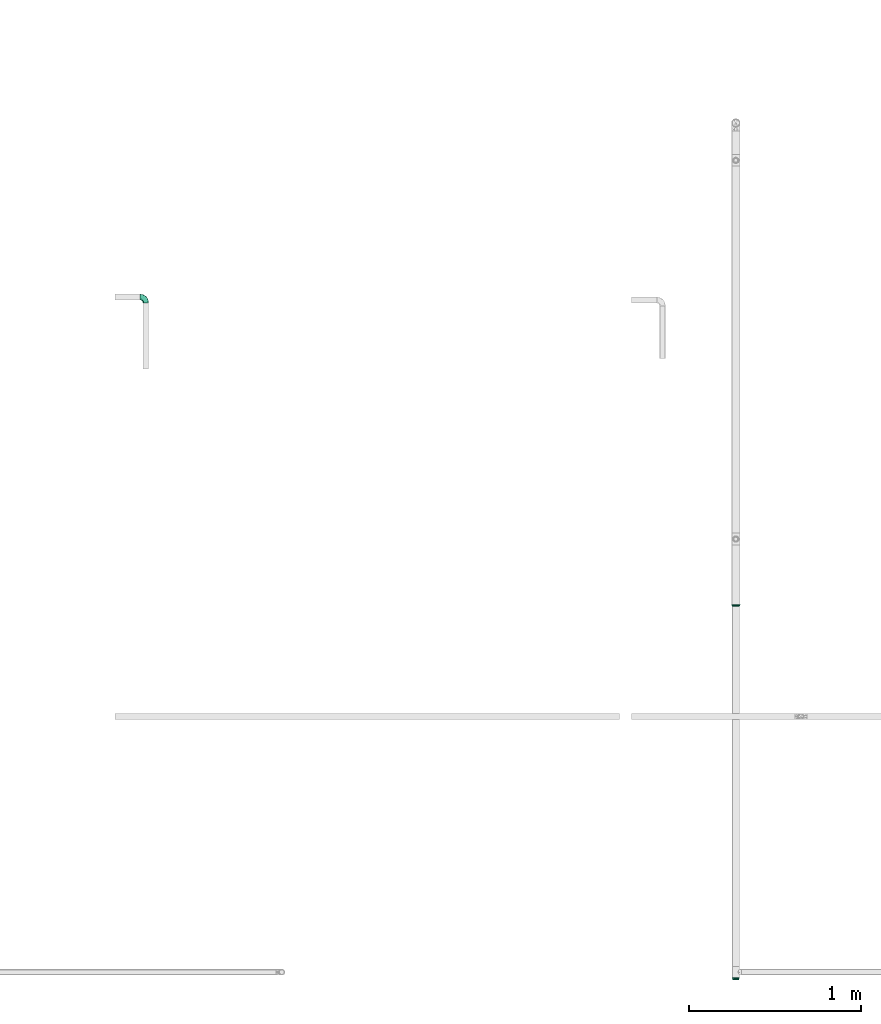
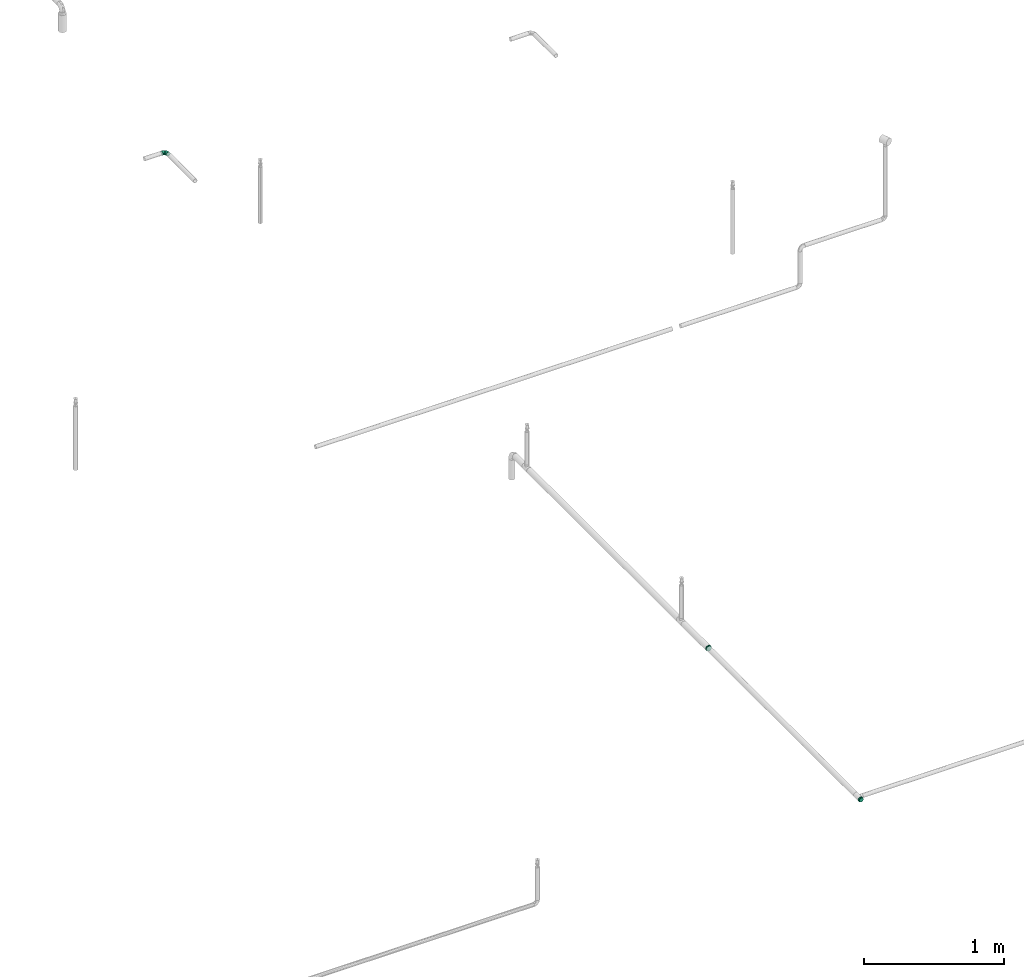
# One storey, part 25 of 63: 3 flow fittings.
"""IFC2X3 building model written with IfcOpenShell, lengths in millimetres."""

import ifcopenshell
import ifcopenshell.guid

model = None  # the IFC model being written
_history = None  # IfcOwnerHistory: only IFC2X3 demands one
_inside = {}  # id of a spatial element -> (the spatial element, [elements in it])
_under = {}  # id of a project, library or spatial element -> (it, [spatial elements below it])
_declared = {}  # id of a project -> (the project, [libraries it declares])
_typed = {}  # id of a type object -> (the type object, [elements of that type])
_made_of = {}  # id of a material, layer set ... -> (it, [elements and type objects made of it])


def new_model(schema):
    """Start an empty IFC model of exactly this schema.

    Asked for "IFC4X3", IfcOpenShell would pick the latest addendum, in which some entities
    have other attributes; the version numbers below select the first issue.
    IFC2X3 requires an IfcOwnerHistory on every rooted entity: one is made here for all.
    """
    global model, _history
    if schema == "IFC4X3":
        model = ifcopenshell.file(schema_version=(4, 3, 0, 0))
    else:
        model = ifcopenshell.file(schema=schema)
    _inside.clear()
    _under.clear()
    _declared.clear()
    _typed.clear()
    _made_of.clear()
    _history = None
    if model.schema == "IFC2X3":
        org = make("IfcOrganization", Name="unknown")
        user = make(
            "IfcPersonAndOrganization",
            ThePerson=make("IfcPerson", FamilyName="unknown"),
            TheOrganization=org,
        )
        app = make(
            "IfcApplication",
            ApplicationDeveloper=org,
            Version="unknown",
            ApplicationFullName="unknown",
            ApplicationIdentifier="unknown",
        )
        _history = make(
            "IfcOwnerHistory",
            OwningUser=user,
            OwningApplication=app,
            ChangeAction="ADDED",
            CreationDate=0,
        )
    return model


def make(cls, **values):
    """One entity of the class cls with the attributes given. An attribute that is None is left unset."""
    return model.create_entity(
        cls, **{name: value for name, value in values.items() if value is not None}
    )


def entity(cls, *values):
    """Any entity or typed value of the class cls, its attributes in the order of the schema. None: left unset."""
    e = model.create_entity(cls)
    for i, value in enumerate(values):
        if value is not None:
            e[i] = value
    return e


def rooted(cls, **values):
    """An entity with a GlobalId (a new one), such as an element, a storey or a relation."""
    return make(cls, GlobalId=ifcopenshell.guid.new(), OwnerHistory=_history, **values)


def si_unit(unit_type, name, prefix=None):
    """IfcSIUnit, for example si_unit("LENGTHUNIT", "METRE", prefix="MILLI")."""
    return make("IfcSIUnit", UnitType=unit_type, Prefix=prefix, Name=name)


def converted_unit(unit_type, name, factor, base, dimensions=None, offset=None):
    """IfcConversionBasedUnit, such as the inch: factor (a typed value) times the base unit."""
    return make(
        "IfcConversionBasedUnit"
        if offset is None
        else "IfcConversionBasedUnitWithOffset",
        ConversionOffset=offset,
        Dimensions=None
        if dimensions is None
        else entity("IfcDimensionalExponents", *dimensions),
        UnitType=unit_type,
        Name=name,
        ConversionFactor=make(
            "IfcMeasureWithUnit", ValueComponent=factor, UnitComponent=base
        ),
    )


def derived_unit(unit_type, elements):
    """IfcDerivedUnit: a product of units, each with its exponent."""
    return make(
        "IfcDerivedUnit",
        Elements=[
            make("IfcDerivedUnitElement", Unit=unit, Exponent=power)
            for unit, power in elements
        ],
        UnitType=unit_type,
    )


def assignment(units):
    """IfcUnitAssignment: the units of a project."""
    return None if units is None else make("IfcUnitAssignment", Units=units)


def point(xyz):
    """IfcCartesianPoint."""
    return None if xyz is None else make("IfcCartesianPoint", Coordinates=xyz)


def direction(xyz):
    """IfcDirection."""
    return None if xyz is None else make("IfcDirection", DirectionRatios=xyz)


def frame(location, z_axis=None, x_axis=None):
    """IfcAxis2Placement3D, a coordinate frame: its origin and axes. An axis left out is left unset."""
    return make(
        "IfcAxis2Placement3D",
        Location=point(location),
        Axis=direction(z_axis),
        RefDirection=direction(x_axis),
    )


def origin_with_axes():
    """The frame at (0, 0, 0) with the z axis (0, 0, 1) and the x axis (1, 0, 0) written out."""
    return frame((0.0, 0.0, 0.0), z_axis=(0.0, 0.0, 1.0), x_axis=(1.0, 0.0, 0.0))


def place(relative_to, where):
    """IfcLocalPlacement: puts the frame where relative to a parent placement (None: the world)."""
    return make(
        "IfcLocalPlacement", PlacementRelTo=relative_to, RelativePlacement=where
    )


def context(
    kind, dimensions, precision=None, world=None, true_north=None, identifier=None
):
    """IfcGeometricRepresentationContext, for example the 3D "Model" context."""
    return make(
        "IfcGeometricRepresentationContext",
        ContextIdentifier=identifier,
        ContextType=kind,
        CoordinateSpaceDimension=dimensions,
        Precision=precision,
        WorldCoordinateSystem=world,
        TrueNorth=true_north,
    )


def subcontext(parent, identifier, kind, view, scale=None):
    """IfcGeometricRepresentationSubContext, for example "Body" below "Model"."""
    return make(
        "IfcGeometricRepresentationSubContext",
        ContextIdentifier=identifier,
        ContextType=kind,
        ParentContext=parent,
        TargetScale=scale,
        TargetView=view,
    )


def project(units=None, contexts=None):
    """IfcProject with its units and contexts."""
    return rooted(
        "IfcProject",
        Name="project",
        RepresentationContexts=contexts,
        UnitsInContext=assignment(units),
    )


def spatial(cls, under=None, at=None, **own):
    """A site, building, storey or space (cls), placed at a placement, below another one or the project."""
    s = rooted(cls, ObjectPlacement=at, **own)
    if under is not None:
        _under.setdefault(under.id(), (under, []))[1].append(s)
    return s


def faces_of(points, faces, orient=None, outer=None):
    """IfcFace entities. A face is a list of loops; a loop is a list of indices into points, from 0.

    orient and outer hold one flag for each loop. By default every Orientation is true, the
    first loop of a face is its IfcFaceOuterBound and the others are IfcFaceBound.
    """
    made = []
    for i, loops in enumerate(faces):
        bounds = []
        for j, loop in enumerate(loops):
            is_outer = j == 0 if outer is None else outer[i][j]
            bounds.append(
                make(
                    "IfcFaceOuterBound" if is_outer else "IfcFaceBound",
                    Bound=make("IfcPolyLoop", Polygon=[points[k] for k in loop]),
                    Orientation=True if orient is None else orient[i][j],
                )
            )
        made.append(make("IfcFace", Bounds=bounds))
    return made


def open_shell(faces, orient=None, outer=None):
    """The faces of one IfcOpenShell. surface_model builds it on its shared points."""
    return ("IfcOpenShell", faces, orient, outer)


def surface_model(cls, points, shells):
    """IfcFaceBasedSurfaceModel or IfcShellBasedSurfaceModel (cls): surfaces that need not close."""
    shared = [point(p) for p in points]
    made = [make(c, CfsFaces=faces_of(shared, fs, o, b)) for c, fs, o, b in shells]
    if cls == "IfcFaceBasedSurfaceModel":
        return make(cls, FbsmFaces=made)
    return make(cls, SbsmBoundary=made)


def shape(context_of_items, identifier, shape_type, items):
    """IfcShapeRepresentation: the items that make up one representation, for example the "Body"."""
    return make(
        "IfcShapeRepresentation",
        ContextOfItems=context_of_items,
        RepresentationIdentifier=identifier,
        RepresentationType=shape_type,
        Items=items,
    )


def source(mapping_origin, context_of_items, identifier, shape_type, items):
    """IfcRepresentationMap: a shape defined once, which mapped items show again and again."""
    return make(
        "IfcRepresentationMap",
        MappingOrigin=mapping_origin,
        MappedRepresentation=shape(context_of_items, identifier, shape_type, items),
    )


def transform(
    local_origin,
    x_axis=None,
    y_axis=None,
    z_axis=None,
    scale=None,
    scale2=None,
    scale3=None,
    uniform=True,
):
    """IfcCartesianTransformationOperator3D, or its non-uniform kind. x_axis, y_axis, z_axis: its Axis1, 2, 3."""
    if uniform:
        return make(
            "IfcCartesianTransformationOperator3D",
            Axis1=direction(x_axis),
            Axis2=direction(y_axis),
            LocalOrigin=point(local_origin),
            Scale=scale,
            Axis3=direction(z_axis),
        )
    return make(
        "IfcCartesianTransformationOperator3DnonUniform",
        Axis1=direction(x_axis),
        Axis2=direction(y_axis),
        LocalOrigin=point(local_origin),
        Scale=scale,
        Axis3=direction(z_axis),
        Scale2=scale2,
        Scale3=scale3,
    )


def mapped(mapping_source, mapping_target):
    """IfcMappedItem: shows the shape of a source again, moved by a transform."""
    return make(
        "IfcMappedItem", MappingSource=mapping_source, MappingTarget=mapping_target
    )


def made_of(thing, what):
    """Note that an element or type object is made of a material, layer set ...; save() writes the relation."""
    if what is not None:
        _made_of.setdefault(what.id(), (what, []))[1].append(thing)
    return thing


def type_object(cls, material=None, **own):
    """A type object (cls), such as IfcWallType, which elements share."""
    return made_of(rooted(cls, **own), material)


def element(
    cls,
    number,
    at=None,
    inside=None,
    cuts=None,
    type_object=None,
    material=None,
    context=None,
    identifier="Body",
    shape_type=None,
    held_by="IfcProductDefinitionShape",
    body=None,
    shapes=None,
    **own,
):
    """One element of the class cls, such as IfcWall. Its Tag is "e" and its number.

    at: its placement. inside: the storey or other place that contains it. cuts: it is an
    opening in that element (IfcRelVoidsElement). A single representation is given by context,
    identifier, shape_type and body (its items); several are given by shapes. held_by: the class
    of the entity that holds the representations. save() writes the other relations.
    """
    e = rooted(cls, Tag="e%d" % number, ObjectPlacement=at, **own)
    if body is not None:
        shapes = [shape(context, identifier, shape_type, body)]
    if shapes is not None:
        e.Representation = make(held_by, Representations=shapes)
    if inside is not None:
        _inside.setdefault(inside.id(), (inside, []))[1].append(e)
    if cuts is not None:
        rooted(
            "IfcRelVoidsElement", RelatingBuildingElement=cuts, RelatedOpeningElement=e
        )
    if type_object is not None:
        _typed.setdefault(type_object.id(), (type_object, []))[1].append(e)
    return made_of(e, material)


def aggregate(whole, parts):
    """IfcRelAggregates: a whole, such as a stair, and the parts it consists of."""
    return rooted("IfcRelAggregates", RelatingObject=whole, RelatedObjects=parts)


def save(model, path):
    """Write the relations noted so far, then the file.

    IfcRelAggregates (storeys below a building ...), IfcRelContainedInSpatialStructure (elements
    in a storey), IfcRelDefinesByType, IfcRelAssociatesMaterial and IfcRelDeclares: one each for
    every whole, place, type object, material and project.
    """
    for whole, parts in _under.values():
        aggregate(whole, parts)
    for where, things in _inside.values():
        rooted(
            "IfcRelContainedInSpatialStructure",
            RelatedElements=things,
            RelatingStructure=where,
        )
    for kind, things in _typed.values():
        rooted("IfcRelDefinesByType", RelatedObjects=things, RelatingType=kind)
    for what, things in _made_of.values():
        rooted("IfcRelAssociatesMaterial", RelatedObjects=things, RelatingMaterial=what)
    for by, libraries in _declared.values():
        rooted("IfcRelDeclares", RelatingContext=by, RelatedDefinitions=libraries)
    model.write(path)


model = new_model("IFC2X3")

# Units and contexts
model_context = context("Model", 3, precision=0.01, world=frame((0.0, 4.29681676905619e-09, 0.0)), true_north=direction((4.01073788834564e-13, 1.0)))
plan_context = context("Plan", 3, precision=0.01, world=frame((0.0, 4.29681676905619e-09, 0.0)), true_north=direction((4.01073788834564e-13, 1.0)))
body_context = subcontext(model_context, "Body", "Model", "MODEL_VIEW")
ifc_project = project(units=[converted_unit("PLANEANGLEUNIT", "DEGREE", entity("IfcPositiveLengthMeasure", 0.0174532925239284), si_unit("PLANEANGLEUNIT", "RADIAN"), dimensions=[0, 0, 0, 0, 0, 0, 0]), si_unit("AREAUNIT", "SQUARE_METRE"), si_unit("LENGTHUNIT", "METRE", prefix="MILLI"), si_unit("MASSUNIT", "GRAM", prefix="KILO"), si_unit("POWERUNIT", "WATT"), si_unit("PRESSUREUNIT", "PASCAL", prefix="KILO"), si_unit("FORCEUNIT", "NEWTON", prefix="KILO"), si_unit("ELECTRICVOLTAGEUNIT", "VOLT"), si_unit("ELECTRICCURRENTUNIT", "AMPERE"), si_unit("THERMODYNAMICTEMPERATUREUNIT", "DEGREE_CELSIUS"), si_unit("TIMEUNIT", "SECOND"), si_unit("VOLUMEUNIT", "CUBIC_METRE"), derived_unit("LINEARVELOCITYUNIT", [(si_unit("LENGTHUNIT", "METRE"), 1), (si_unit("TIMEUNIT", "SECOND"), -1)]), derived_unit("VOLUMETRICFLOWRATEUNIT", [(si_unit("VOLUMEUNIT", "CUBIC_METRE"), 1), (si_unit("TIMEUNIT", "SECOND"), -1)]), derived_unit("THERMALTRANSMITTANCEUNIT", [(si_unit("POWERUNIT", "WATT"), 1), (si_unit("THERMODYNAMICTEMPERATUREUNIT", "KELVIN"), -1), (si_unit("AREAUNIT", "SQUARE_METRE"), -1)]), derived_unit("SOUNDPRESSUREUNIT", [(si_unit("PRESSUREUNIT", "PASCAL"), 1)])], contexts=[model_context, plan_context])

# Site, building, storey
site_placement = place(None, frame((0.0, -4.29681676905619e-09, 0.0), z_axis=(0.0, 0.0, 1.0), x_axis=(1.0, 0.0, 0.0)))
site = spatial("IfcSite", under=ifc_project, at=site_placement, CompositionType="ELEMENT")
building_placement = place(site_placement, frame((0.0, 4.29681676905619e-09, 0.0), z_axis=(0.0, 0.0, 1.0), x_axis=(1.0, 0.0, 0.0)))
building = spatial("IfcBuilding", under=site, at=building_placement, Name="mc-building", CompositionType="ELEMENT")
storey_placement = place(building_placement, frame((0.0, 0.0, 207370.0), z_axis=(0.0, 0.0, 1.0), x_axis=(1.0, 0.0, 0.0)))
storey = spatial("IfcBuildingStorey", under=building, at=storey_placement, Name="Nivå E", CompositionType="ELEMENT", Elevation=207370.0)

# Flow fittings
pipe_fitting_type_1 = type_object("IfcPipeFittingType", Name="magi_pipe_fe_reducer_centric_short_NOR", PredefinedType="TRANSITION")
shared_shape_1 = source(origin_with_axes(), body_context, "Body", "SurfaceModel", [
    surface_model("IfcShellBasedSurfaceModel", [(8.0, 10.6, -18.35974), (8.0, 0.0, -21.2), (8.0, 5.48696, -20.47763), (8.0, 20.47763, -5.48696), (8.0, 14.99066, -14.99066), (8.0, -21.2, 0.0), (8.0, -14.99066, -14.99066), (8.0, 18.35974, -10.6), (8.0, -10.6, -18.35974), (8.0, -5.48696, -20.47763), (8.0, -18.35974, -10.6), (8.0, -20.47763, -5.48696), (8.0, -18.35974, 10.6), (8.0, 21.2, 0.0), (8.0, 20.47763, 5.48696), (8.0, 18.35974, 10.6), (8.0, 14.99066, 14.99066), (8.0, 0.0, 21.2), (8.0, 10.6, 18.35974), (8.0, 5.48696, 20.47763), (8.0, -14.99066, 14.99066), (8.0, -20.47763, 5.48696), (8.0, -5.48696, 20.47763), (8.0, -10.6, 18.35974), (6.0, 0.0, 21.2), (6.0, 5.48696, 20.47763), (6.0, 10.6, 18.35974), (6.0, 14.99066, 14.99066), (6.0, 18.35974, 10.6), (6.0, 20.47763, 5.48696), (6.0, -21.2, 0.0), (6.0, -14.99066, -14.99066), (6.0, -5.48696, 20.47763), (6.0, -14.99066, 14.99066), (6.0, -10.6, 18.35974), (6.0, -18.35974, 10.6), (6.0, -20.47763, 5.48696), (6.0, 20.47763, -5.48696), (6.0, 10.6, -18.35974), (6.0, 14.99066, -14.99066), (6.0, 18.35974, -10.6), (6.0, 5.48696, -20.47763), (6.0, 0.0, -21.2), (6.0, -18.35974, -10.6), (6.0, -20.47763, -5.48696), (6.0, -10.6, -18.35974), (6.0, -5.48696, -20.47763), (6.0, 21.2, 0.0), (-2.0, 0.0, 24.2), (-2.0, 6.26342, 23.37541), (-2.0, 12.1, 20.95781), (-2.0, 17.11198, 17.11198), (-2.0, 24.2, 0.0), (-2.0, 20.95781, 12.1), (-2.0, -23.37541, 6.26342), (-2.0, -17.11198, -17.11198), (-2.0, -6.26342, 23.37541), (-2.0, -17.11198, 17.11198), (-2.0, -12.1, 20.95781), (-2.0, -20.95781, 12.1), (-2.0, -24.2, 0.0), (-2.0, 23.37541, 6.26342), (-2.0, 23.37541, -6.26342), (-2.0, 6.26342, -23.37541), (-2.0, 17.11198, -17.11198), (-2.0, 20.95781, -12.1), (-2.0, 12.1, -20.95781), (-2.0, -23.37541, -6.26342), (-2.0, -20.95781, -12.1), (-2.0, -6.26342, -23.37541), (-2.0, -12.1, -20.95781), (-2.0, 0.0, -24.2), (0.0, 24.2, 0.0), (0.0, 6.26342, -23.37541), (0.0, 12.1, -20.95781), (0.0, 23.37541, -6.26342), (0.0, 17.11198, -17.11198), (0.0, 20.95781, -12.1), (0.0, -24.2, 0.0), (0.0, -12.1, -20.95781), (0.0, -6.26342, -23.37541), (0.0, 0.0, -24.2), (0.0, -17.11198, -17.11198), (0.0, -23.37541, -6.26342), (0.0, -20.95781, -12.1), (0.0, 20.95781, 12.1), (0.0, 17.11198, 17.11198), (0.0, 12.1, 20.95781), (0.0, 6.26342, 23.37541), (0.0, 0.0, 24.2), (0.0, -23.37541, 6.26342), (0.0, -17.11198, 17.11198), (0.0, -20.95781, 12.1), (0.0, -6.26342, 23.37541), (0.0, -12.1, 20.95781), (0.0, 23.37541, 6.26342), (6.0, -6.55116, 20.1624), (6.0, -17.15116, 12.46105), (6.0, 17.15116, 12.46105), (6.0, 6.55116, 20.1624), (6.0, -6.55116, -20.1624), (6.0, -17.15116, -12.46105), (6.0, 6.55116, -20.1624), (6.0, 17.15116, -12.46105), (0.0, 7.47821, 23.01557), (0.0, 19.57821, 14.2244), (0.0, -7.47821, 23.01557), (0.0, -19.57821, 14.2244), (0.0, 7.47821, -23.01557), (0.0, 19.57821, -14.2244), (0.0, -7.47821, -23.01557), (0.0, -19.57821, -14.2244), (6.0, 11.85116, -16.31172), (0.0, 13.52821, -18.61999), (0.0, 21.8891, -7.1122), (6.0, 19.17558, -6.23052), (0.0, -22.51537, -5.18476), (6.0, 0.0, -20.1624), (0.0, 0.0, -23.01557), (6.0, -19.17558, -6.23052), (0.0, -13.52821, -18.61999), (6.0, -11.85116, -16.31172), (0.0, -21.04679, -9.70458), (6.0, -11.85116, 16.31172), (0.0, -13.52821, 18.61999), (0.0, -21.8891, 7.1122), (6.0, -19.17558, 6.23052), (0.0, 22.51537, 5.18476), (6.0, 0.0, 20.1624), (0.0, 0.0, 23.01557), (6.0, 19.17558, 6.23052), (0.0, 13.52821, 18.61999), (6.0, 11.85116, 16.31172), (0.0, 21.04679, 9.70458)], [open_shell([[[0, 1, 2]], [[3, 0, 4]], [[5, 6, 0]], [[3, 4, 7]], [[3, 5, 0]], [[1, 8, 9]], [[1, 0, 8]], [[10, 5, 11]], [[8, 0, 6]], [[10, 6, 5]], [[12, 3, 13]], [[14, 15, 16]], [[14, 16, 17]], [[18, 19, 17]], [[18, 17, 16]], [[14, 17, 20]], [[5, 12, 21]], [[3, 12, 5]], [[20, 22, 23]], [[12, 14, 20]], [[17, 22, 20]], [[12, 13, 14]], [[24, 25, 26]], [[24, 26, 27]], [[27, 28, 29]], [[27, 29, 24]], [[30, 24, 31]], [[32, 33, 34]], [[32, 24, 33]], [[35, 30, 36]], [[33, 24, 35]], [[24, 30, 35]], [[24, 29, 31]], [[29, 37, 38]], [[39, 37, 40]], [[31, 29, 38]], [[38, 37, 39]], [[41, 42, 38]], [[30, 43, 44]], [[31, 43, 30]], [[45, 42, 46]], [[45, 31, 38]], [[42, 45, 38]], [[37, 29, 47]], [[44, 11, 30]], [[43, 10, 44]], [[8, 31, 45]], [[43, 31, 6]], [[9, 45, 46]], [[44, 10, 11]], [[11, 5, 30]], [[9, 8, 45]], [[6, 31, 8]], [[6, 10, 43]], [[1, 9, 46]], [[46, 42, 1]], [[41, 2, 42]], [[38, 0, 41]], [[7, 39, 40]], [[38, 39, 4]], [[3, 40, 37]], [[38, 4, 0]], [[0, 2, 41]], [[13, 3, 37]], [[7, 40, 3]], [[7, 4, 39]], [[47, 13, 37]], [[42, 2, 1]], [[29, 14, 47]], [[28, 15, 29]], [[18, 27, 26]], [[28, 27, 16]], [[19, 26, 25]], [[29, 15, 14]], [[14, 13, 47]], [[19, 18, 26]], [[16, 27, 18]], [[16, 15, 28]], [[17, 19, 25]], [[25, 24, 17]], [[32, 22, 24]], [[34, 23, 32]], [[12, 33, 35]], [[34, 33, 20]], [[21, 35, 36]], [[34, 20, 23]], [[23, 22, 32]], [[5, 21, 36]], [[12, 35, 21]], [[12, 20, 33]], [[30, 5, 36]], [[24, 22, 17]], [[48, 49, 50]], [[48, 50, 51]], [[52, 51, 53]], [[54, 48, 55]], [[48, 51, 55]], [[56, 57, 58]], [[56, 48, 57]], [[57, 54, 59]], [[48, 54, 57]], [[54, 55, 60]], [[52, 53, 61]], [[51, 62, 63]], [[64, 62, 65]], [[66, 63, 62]], [[66, 62, 64]], [[63, 55, 51]], [[67, 55, 68]], [[60, 55, 67]], [[63, 69, 70]], [[70, 55, 63]], [[69, 63, 71]], [[62, 51, 52]], [[72, 73, 74]], [[75, 74, 76]], [[75, 72, 74]], [[75, 76, 77]], [[73, 78, 79]], [[73, 80, 81]], [[73, 79, 80]], [[82, 83, 84]], [[82, 79, 78]], [[82, 78, 83]], [[73, 72, 85]], [[85, 86, 73]], [[73, 86, 78]], [[87, 88, 89]], [[87, 89, 86]], [[78, 86, 89]], [[90, 91, 92]], [[93, 90, 78]], [[91, 93, 94]], [[93, 91, 90]], [[78, 89, 93]], [[72, 95, 85]], [[67, 83, 60]], [[68, 84, 67]], [[79, 55, 70]], [[68, 55, 82]], [[80, 70, 69]], [[67, 84, 83]], [[83, 78, 60]], [[80, 79, 70]], [[82, 55, 79]], [[82, 84, 68]], [[81, 80, 69]], [[69, 71, 81]], [[63, 73, 71]], [[66, 74, 63]], [[77, 64, 65]], [[66, 64, 76]], [[75, 65, 62]], [[66, 76, 74]], [[74, 73, 63]], [[72, 75, 62]], [[77, 65, 75]], [[77, 76, 64]], [[52, 72, 62]], [[71, 73, 81]], [[61, 95, 52]], [[53, 85, 61]], [[87, 51, 50]], [[53, 51, 86]], [[88, 50, 49]], [[61, 85, 95]], [[95, 72, 52]], [[88, 87, 50]], [[86, 51, 87]], [[86, 85, 53]], [[89, 88, 49]], [[49, 48, 89]], [[56, 93, 48]], [[58, 94, 56]], [[92, 57, 59]], [[58, 57, 91]], [[90, 59, 54]], [[58, 91, 94]], [[94, 93, 56]], [[78, 90, 54]], [[92, 59, 90]], [[92, 91, 57]], [[60, 78, 54]], [[48, 93, 89]], [[96, 97, 98]], [[96, 98, 99]], [[98, 97, 47]], [[97, 100, 47]], [[97, 101, 100]], [[102, 103, 47]], [[47, 100, 102]], [[101, 97, 30]], [[104, 105, 106]], [[105, 107, 106]], [[107, 105, 78]], [[105, 108, 78]], [[109, 108, 105]], [[78, 110, 111]], [[78, 108, 110]], [[105, 72, 109]], [[109, 103, 112]], [[102, 113, 112]], [[113, 102, 108]], [[114, 115, 103]], [[47, 115, 72]], [[113, 109, 112]], [[30, 78, 116]], [[108, 117, 118]], [[118, 117, 100]], [[100, 110, 118]], [[103, 109, 114]], [[72, 115, 114]], [[116, 119, 30]], [[120, 121, 101]], [[100, 121, 110]], [[119, 122, 101]], [[110, 121, 120]], [[101, 111, 120]], [[119, 116, 122]], [[102, 117, 108]], [[122, 111, 101]], [[107, 97, 123]], [[96, 124, 123]], [[124, 96, 106]], [[125, 126, 97]], [[30, 126, 78]], [[124, 107, 123]], [[47, 72, 127]], [[106, 128, 129]], [[129, 128, 99]], [[99, 104, 129]], [[97, 107, 125]], [[78, 126, 125]], [[127, 130, 47]], [[131, 132, 98]], [[99, 132, 104]], [[130, 133, 98]], [[104, 132, 131]], [[98, 105, 131]], [[130, 127, 133]], [[96, 128, 106]], [[133, 105, 98]]])]),
])
flow_fitting_1_placement = place(storey_placement, frame((719641.29045, 436829.40604, 2700.0), z_axis=(0.0, 0.0, 1.0), x_axis=(0.0, -1.0, 0.0)))
element("IfcFlowFitting", 1, at=flow_fitting_1_placement, inside=storey, type_object=pipe_fitting_type_1, Name="magi_pipe_fe_reducer_centric_short_NOR", context=body_context, shape_type="MappedRepresentation", body=[
    mapped(shared_shape_1, transform((0.0, 0.0, 0.0), scale=1.0)),
])
shared_shape_2 = source(origin_with_axes(), body_context, "Body", "SurfaceModel", [
    surface_model("IfcShellBasedSurfaceModel", [(-2.0, -10.6, -18.35974), (-2.0, 0.0, -21.2), (-2.0, -5.48696, -20.47763), (-2.0, 5.48696, -20.47763), (-2.0, 10.6, -18.35974), (8.6, -11.9501, -11.9501), (8.6, -11.9501, 11.9501), (8.6, -16.9, 0.0), (8.6, 11.9501, -11.9501), (8.6, 16.9, 0.0), (8.6, 0.0, -16.9), (0.0, 17.15116, 12.46105), (0.0, 6.55116, -20.1624), (0.0, -21.2, 0.0), (0.0, -6.55116, -20.1624), (0.0, -17.15116, -12.46105), (8.6, 2.98753, -15.66253), (0.0, 0.0, -20.1624), (0.0, -11.85116, -16.31172), (8.6, -2.98753, -15.66253), (8.6, 8.96258, -13.18758), (8.6, 5.97505, -14.42505), (0.0, 11.85116, -16.31172), (8.6, -5.97505, -14.42505), (8.6, -13.18758, -8.96258), (8.6, -8.96258, -13.18758), (0.0, -6.55116, 20.1624), (8.6, -2.98753, 15.66253), (0.0, 0.0, 20.1624), (8.6, 11.9501, 11.9501), (0.0, 11.85116, 16.31172), (8.6, 2.98753, 15.66253), (0.0, 6.55116, 20.1624), (8.6, -8.96258, 13.18758), (8.6, -5.97505, 14.42505), (0.0, -11.85116, 16.31172), (8.6, 5.97505, 14.42505), (8.6, 13.18758, 8.96258), (8.6, 8.96258, 13.18758), (10.6, 4.37404, -16.32415), (10.6, 8.45, -14.63583), (10.6, 11.9501, -11.9501), (10.6, -8.45, -14.63583), (10.6, 16.32415, -4.37404), (10.6, 16.32415, 4.37404), (10.6, 14.63583, -8.45), (10.6, 0.0, -16.9), (10.6, -4.37404, -16.32415), (10.6, -11.9501, -11.9501), (10.6, -16.32415, -4.37404), (10.6, -14.63583, -8.45), (10.6, -16.32415, 4.37404), (10.6, 16.9, 0.0), (10.6, 14.63583, 8.45), (10.6, 11.9501, 11.9501), (10.6, 4.37404, 16.32415), (10.6, 8.45, 14.63583), (10.6, 0.0, 16.9), (10.6, -14.63583, 8.45), (10.6, -16.9, 0.0), (10.6, -8.45, 14.63583), (10.6, -11.9501, 11.9501), (10.6, -4.37404, 16.32415), (8.6, 4.37404, 16.32415), (8.6, -14.63583, 8.45), (8.6, 0.0, 16.9), (8.6, 16.32415, 4.37404), (8.6, 8.45, 14.63583), (8.6, 14.63583, 8.45), (8.6, -8.45, 14.63583), (8.6, -4.37404, 16.32415), (8.6, -16.32415, 4.37404), (8.6, -16.32415, -4.37404), (8.6, -8.45, -14.63583), (8.6, 16.32415, -4.37404), (8.6, 14.63583, -8.45), (8.6, 8.45, -14.63583), (8.6, 4.37404, -16.32415), (8.6, -14.63583, -8.45), (8.6, -4.37404, -16.32415), (-2.0, 0.0, 21.2), (-2.0, 5.48696, 20.47763), (-2.0, 10.6, 18.35974), (-2.0, 14.99066, 14.99066), (-2.0, 18.35974, 10.6), (-2.0, 20.47763, 5.48696), (-2.0, -21.2, 0.0), (-2.0, -14.99066, -14.99066), (-2.0, -5.48696, 20.47763), (-2.0, -14.99066, 14.99066), (-2.0, -10.6, 18.35974), (-2.0, -18.35974, 10.6), (-2.0, -20.47763, 5.48696), (-2.0, 20.47763, -5.48696), (-2.0, 14.99066, -14.99066), (-2.0, 18.35974, -10.6), (-2.0, -18.35974, -10.6), (-2.0, -20.47763, -5.48696), (-2.0, 21.2, 0.0), (0.0, 10.6, -18.35974), (0.0, 0.0, -21.2), (0.0, 5.48696, -20.47763), (0.0, 20.47763, -5.48696), (0.0, 14.99066, -14.99066), (0.0, -14.99066, -14.99066), (0.0, 18.35974, -10.6), (0.0, -10.6, -18.35974), (0.0, -5.48696, -20.47763), (0.0, -18.35974, -10.6), (0.0, -20.47763, -5.48696), (0.0, -18.35974, 10.6), (0.0, 21.2, 0.0), (0.0, 20.47763, 5.48696), (0.0, 18.35974, 10.6), (0.0, 14.99066, 14.99066), (0.0, 0.0, 21.2), (0.0, 10.6, 18.35974), (0.0, 5.48696, 20.47763), (0.0, -14.99066, 14.99066), (0.0, -20.47763, 5.48696), (0.0, -5.48696, 20.47763), (0.0, -10.6, 18.35974), (0.0, -17.15116, 12.46105), (0.0, 17.15116, -12.46105), (0.0, 14.50116, -14.38638), (8.6, -14.42505, -5.97505), (0.0, -19.17558, -6.23052), (0.0, -18.16337, -9.34579), (8.6, 14.42505, -5.97505), (0.0, 19.17558, -6.23052), (8.6, 13.18758, -8.96258), (8.6, 15.66253, -2.98753), (8.6, -15.66253, -2.98753), (0.0, -14.50116, 14.38638), (8.6, 14.42505, 5.97505), (0.0, 19.17558, 6.23052), (0.0, 18.16337, 9.34579), (8.6, -14.42505, 5.97505), (0.0, -19.17558, 6.23052), (8.6, -13.18758, 8.96258), (8.6, -15.66253, 2.98753), (8.6, 15.66253, 2.98753)], [open_shell([[[0, 1, 2]], [[3, 1, 4]], [[5, 6, 7]], [[8, 9, 10]], [[11, 12, 13]], [[13, 12, 14]], [[13, 14, 15]], [[12, 16, 17]], [[5, 15, 18]], [[17, 19, 14]], [[20, 21, 22]], [[19, 23, 14]], [[12, 21, 16]], [[15, 5, 24]], [[25, 5, 18]], [[22, 8, 20]], [[26, 27, 28]], [[29, 11, 30]], [[28, 31, 32]], [[33, 34, 35]], [[31, 36, 32]], [[26, 34, 27]], [[11, 29, 37]], [[38, 29, 30]], [[35, 6, 33]], [[39, 40, 41]], [[42, 39, 41]], [[41, 43, 44]], [[43, 41, 45]], [[41, 44, 42]], [[46, 42, 47]], [[46, 39, 42]], [[48, 49, 50]], [[49, 48, 42]], [[42, 51, 49]], [[44, 43, 52]], [[44, 53, 54]], [[44, 54, 55]], [[55, 51, 42]], [[55, 54, 56]], [[51, 55, 57]], [[57, 58, 51]], [[59, 49, 51]], [[58, 60, 61]], [[58, 57, 60]], [[60, 57, 62]], [[42, 44, 55]], [[63, 64, 65]], [[66, 63, 67]], [[29, 68, 66]], [[29, 66, 67]], [[64, 63, 66]], [[69, 64, 6]], [[69, 70, 65]], [[65, 64, 69]], [[71, 64, 66]], [[71, 72, 7]], [[71, 66, 73]], [[66, 74, 8]], [[8, 74, 75]], [[8, 76, 77]], [[73, 66, 8]], [[77, 10, 8]], [[72, 5, 78]], [[5, 72, 73]], [[73, 10, 79]], [[72, 71, 73]], [[8, 10, 73]], [[74, 66, 9]], [[72, 49, 7]], [[78, 50, 72]], [[42, 5, 73]], [[78, 5, 48]], [[47, 73, 79]], [[72, 50, 49]], [[49, 59, 7]], [[47, 42, 73]], [[48, 5, 42]], [[48, 50, 78]], [[46, 47, 79]], [[79, 10, 46]], [[77, 39, 10]], [[76, 40, 77]], [[45, 8, 75]], [[76, 8, 41]], [[43, 75, 74]], [[76, 41, 40]], [[40, 39, 77]], [[52, 43, 74]], [[45, 75, 43]], [[45, 41, 8]], [[9, 52, 74]], [[10, 39, 46]], [[66, 44, 9]], [[68, 53, 66]], [[56, 29, 67]], [[68, 29, 54]], [[55, 67, 63]], [[66, 53, 44]], [[44, 52, 9]], [[55, 56, 67]], [[54, 29, 56]], [[54, 53, 68]], [[57, 55, 63]], [[63, 65, 57]], [[70, 62, 65]], [[69, 60, 70]], [[58, 6, 64]], [[69, 6, 61]], [[51, 64, 71]], [[69, 61, 60]], [[60, 62, 70]], [[59, 51, 71]], [[58, 64, 51]], [[58, 61, 6]], [[7, 59, 71]], [[65, 62, 57]], [[80, 81, 82]], [[80, 82, 83]], [[83, 84, 85]], [[83, 85, 80]], [[86, 80, 87]], [[88, 89, 90]], [[88, 80, 89]], [[91, 86, 92]], [[89, 80, 91]], [[80, 86, 91]], [[80, 85, 87]], [[85, 93, 4]], [[94, 93, 95]], [[87, 85, 4]], [[4, 93, 94]], [[86, 96, 97]], [[87, 96, 86]], [[0, 87, 4]], [[1, 0, 4]], [[93, 85, 98]], [[99, 100, 101]], [[102, 99, 103]], [[13, 104, 99]], [[102, 103, 105]], [[102, 13, 99]], [[100, 106, 107]], [[100, 99, 106]], [[108, 13, 109]], [[106, 99, 104]], [[108, 104, 13]], [[110, 102, 111]], [[112, 113, 114]], [[112, 114, 115]], [[116, 117, 115]], [[116, 115, 114]], [[112, 115, 118]], [[13, 110, 119]], [[102, 110, 13]], [[118, 120, 121]], [[110, 112, 118]], [[115, 120, 118]], [[110, 111, 112]], [[97, 109, 86]], [[96, 108, 97]], [[106, 87, 0]], [[96, 87, 104]], [[107, 0, 2]], [[97, 108, 109]], [[109, 13, 86]], [[107, 106, 0]], [[104, 87, 106]], [[104, 108, 96]], [[100, 107, 2]], [[2, 1, 100]], [[3, 101, 1]], [[4, 99, 3]], [[105, 94, 95]], [[4, 94, 103]], [[102, 95, 93]], [[4, 103, 99]], [[99, 101, 3]], [[111, 102, 93]], [[105, 95, 102]], [[105, 103, 94]], [[98, 111, 93]], [[1, 101, 100]], [[85, 112, 98]], [[84, 113, 85]], [[116, 83, 82]], [[84, 83, 114]], [[117, 82, 81]], [[85, 113, 112]], [[112, 111, 98]], [[117, 116, 82]], [[114, 83, 116]], [[114, 113, 84]], [[115, 117, 81]], [[81, 80, 115]], [[88, 120, 80]], [[90, 121, 88]], [[110, 89, 91]], [[90, 89, 118]], [[119, 91, 92]], [[90, 118, 121]], [[121, 120, 88]], [[13, 119, 92]], [[110, 91, 119]], [[110, 118, 89]], [[86, 13, 92]], [[80, 120, 115]], [[65, 6, 29]], [[9, 29, 6]], [[6, 10, 9]], [[10, 6, 5]], [[32, 11, 122]], [[32, 122, 26]], [[122, 11, 13]], [[12, 11, 123]], [[123, 11, 111]], [[8, 22, 124]], [[125, 126, 127]], [[22, 21, 12]], [[8, 124, 123]], [[128, 123, 129]], [[17, 16, 10]], [[123, 128, 130]], [[111, 131, 129]], [[13, 132, 7]], [[18, 23, 25]], [[13, 126, 132]], [[19, 17, 10]], [[131, 111, 9]], [[125, 132, 126]], [[15, 24, 127]], [[24, 125, 127]], [[8, 123, 130]], [[23, 18, 14]], [[131, 128, 129]], [[6, 35, 133]], [[134, 135, 136]], [[35, 34, 26]], [[6, 133, 122]], [[137, 122, 138]], [[28, 27, 65]], [[122, 137, 139]], [[13, 140, 138]], [[111, 141, 9]], [[30, 36, 38]], [[111, 135, 141]], [[31, 28, 65]], [[140, 13, 7]], [[134, 141, 135]], [[11, 37, 136]], [[37, 134, 136]], [[6, 122, 139]], [[36, 30, 32]], [[140, 137, 138]]])]),
])
flow_fitting_2_placement = place(storey_placement, frame((719641.29045, 434662.11689, 2700.0), z_axis=(0.0, 0.0, 1.0), x_axis=(0.0, -1.0, 0.0)))
element("IfcFlowFitting", 2, at=flow_fitting_2_placement, inside=storey, type_object=pipe_fitting_type_1, Name="magi_pipe_fe_reducer_centric_short_NOR", context=body_context, shape_type="MappedRepresentation", body=[
    mapped(shared_shape_2, transform((0.0, 0.0, 0.0), scale=1.0)),
])
pipe_fitting_type_2 = type_object("IfcPipeFittingType", Name="magi_pipe_fe_elbow_short_001", PredefinedType="BEND")
shared_shape_3 = source(origin_with_axes(), body_context, "Body", "SurfaceModel", [
    surface_model("IfcShellBasedSurfaceModel", [(-33.8, 8.45, -14.63583), (-33.8, 4.37404, -16.32415), (-33.8, 11.9501, -11.9501), (-33.8, -11.9501, -11.9501), (-33.8, -14.63583, -8.45), (-33.8, -8.45, -14.63583), (-33.8, 0.0, -16.9), (-33.8, -4.37404, -16.32415), (-33.8, -4.37404, 16.32415), (-33.8, 0.0, 16.9), (-33.8, -8.45, 14.63583), (-33.8, 16.32415, -4.37404), (-33.8, 14.63583, -8.45), (-33.8, -16.32415, -4.37404), (-33.8, -16.9, 0.0), (-33.8, -16.32415, 4.37404), (-33.8, 11.9501, 11.9501), (-33.8, 14.63583, 8.45), (-33.8, 16.32415, 4.37404), (-33.8, 4.37404, 16.32415), (-33.8, 8.45, 14.63583), (-33.8, -14.63583, 8.45), (-33.8, -11.9501, 11.9501), (-33.8, 16.9, 0.0), (-11.9501, 33.8, -11.9501), (0.0, 33.8, -16.9), (-4.37404, 33.8, -16.32415), (-8.45, 33.8, -14.63583), (-14.63583, 33.8, -8.45), (-16.32415, 33.8, -4.37404), (14.63583, 33.8, -8.45), (8.45, 33.8, 14.63583), (16.32415, 33.8, -4.37404), (8.45, 33.8, -14.63583), (11.9501, 33.8, -11.9501), (4.37404, 33.8, -16.32415), (16.32415, 33.8, 4.37404), (16.9, 33.8, 0.0), (-11.9501, 33.8, 11.9501), (-16.32415, 33.8, 4.37404), (-14.63583, 33.8, 8.45), (-8.45, 33.8, 14.63583), (-4.37404, 33.8, 16.32415), (11.9501, 33.8, 11.9501), (14.63583, 33.8, 8.45), (0.0, 33.8, 16.9), (4.37404, 33.8, 16.32415), (-16.9, 33.8, 0.0), (-24.79389, -13.12945, 9.48721), (-22.19287, -9.75018, 12.59315), (-24.09897, -14.97035, 0.0), (-14.93934, -10.76256, 8.5297), (-22.46095, -14.75051, 5.27077), (14.75051, 22.46094, 5.27077), (11.9251, 13.23888, 4.33236), (13.04069, 14.39795, 0.0), (7.71387, 13.68847, 11.55891), (9.75018, 22.19287, 12.59315), (4.10169, 13.0571, 14.04018), (-24.84007, -6.39063, 15.2048), (-25.81779, -2.23879, 16.61097), (-23.66549, 2.59054, 16.87119), (-26.50418, 14.06512, 11.08152), (-24.21253, 17.66365, 7.72657), (-29.58514, 15.86957, 7.00283), (-6.17382, -7.5455, 0.0), (-13.23888, -11.9251, 4.33236), (-14.39795, -13.04069, 0.0), (-17.81434, 18.87373, 11.97104), (-6.30846, 29.15138, 15.82987), (-2.31622, 25.28002, 16.85849), (-29.23923, 10.23435, 13.77053), (-1.45439, -2.85688, 7.61475), (-0.28326, 0.34872, 10.09509), (-5.74484, -4.04709, 10.4122), (-4.41137, 11.31918, 16.59407), (-8.39727, 3.10034, 15.7812), (-1.72649, 9.1306, 15.53089), (-17.39909, 24.75344, 7.64977), (-26.19233, 20.0512, 0.0), (-28.14518, 17.29657, 4.25857), (-26.05147, 6.6281, 15.96447), (-5.87354, 16.61944, 16.86968), (-12.51807, 12.51807, 16.48937), (-10.06312, 7.38516, 16.81295), (-3.01882, 3.01882, 13.81718), (-13.0571, -4.10169, 14.04018), (-16.82553, -0.15166, 16.38038), (10.76256, 14.93934, 8.5297), (13.12945, 24.79389, 9.48721), (6.39063, 24.84007, 15.2048), (2.23879, 25.81779, 16.61097), (-13.68847, -7.71387, 11.55891), (14.97035, 24.09897, 0.0), (-7.30894, 22.89991, 16.09489), (-10.67958, 26.17414, 14.008), (-12.78295, 18.26924, 15.06066), (-13.88562, 22.45231, 12.93244), (-18.04944, 15.16501, 14.04434), (-23.11658, 20.08178, 4.02986), (-21.84989, 21.84989, 0.0), (-18.55817, 25.48277, 3.93065), (-13.95142, 26.94732, 11.03289), (-18.57098, 7.23906, 16.59756), (-16.58335, 4.14122, 16.89279), (-17.96666, 11.46709, 15.63151), (-9.84453, 17.54304, 16.18938), (0.15166, 16.82553, 16.38038), (-23.27207, 11.47201, 14.23154), (3.84842, 5.86994, 10.70473), (-8.0212, -7.54413, 7.93275), (1.00345, -2.19508, 4.57414), (5.13203, 3.01004, 5.90201), (5.24161, 1.7543, 2.53265), (8.70457, 7.04947, 3.99182), (-20.0512, 26.19233, 0.0), (8.4852, 8.76699, 7.09296), (-4.55488, -6.72064, 4.90681), (2.05031, -2.05031, 0.0), (7.5455, 6.17382, 0.0), (-26.75399, 2.1369, -16.845), (-14.61995, 24.73803, -11.27736), (-28.45274, -13.45335, -9.81895), (-26.00469, 6.63555, -15.96645), (-23.06726, 20.04573, -4.26202), (-13.80647, -4.26506, -14.17873), (-14.67501, -0.21081, -16.07388), (-6.7902, -0.2828, -13.8478), (-24.53586, 11.08096, -14.13417), (-26.72048, 14.00837, -11.05776), (10.0967, 24.44989, -12.75976), (5.83237, 21.40218, -15.03047), (6.66249, 28.54238, -15.38093), (-20.38182, 15.48705, -12.74596), (12.53268, 21.23441, -9.15363), (12.54494, 15.67504, -5.54878), (9.7522, 12.89279, -8.66343), (-15.65186, 19.64213, -13.01327), (-12.03528, 20.66498, -14.67665), (-15.61907, 15.61906, -14.83879), (-25.56551, -15.26206, 0.0), (-24.65452, -15.12934, -5.50955), (13.45335, 28.45274, -9.81895), (15.12934, 24.65452, -5.50955), (-7.35442, -8.31014, -5.65563), (-15.67504, -12.54494, -5.54878), (-24.44989, -10.0967, -12.75976), (0.16522, 0.41303, -9.71728), (-5.70658, -5.33066, -8.89288), (-5.13869, -2.37198, -11.53565), (-21.23441, -12.53268, -9.15363), (0.71146, 7.93863, -14.09382), (0.21081, 14.67501, -16.07388), (3.49291, 14.42772, -14.76381), (-24.89911, -2.13088, -16.591), (-28.54238, -6.66249, -15.38093), (-18.44386, -7.71663, -13.26957), (2.13088, 24.89911, -16.591), (-28.64342, 17.44413, -2.89318), (1.70017, -1.28722, -5.09504), (-16.57067, 26.81947, -7.36596), (-17.69055, 27.4263, -3.76405), (-12.89279, -9.7522, -8.66343), (-5.96611, 5.96611, -15.95814), (-20.53709, 20.09345, -8.28985), (-2.1369, 26.75399, -16.845), (-6.89872, 24.58781, -16.02578), (-10.60739, 26.53157, -13.98044), (-21.40218, -5.83237, -15.03047), (2.93192, 5.89627, -11.55917), (6.89393, 12.61842, -11.82233), (5.58056, 5.95325, -8.79455), (-3.99512, 18.61798, -16.89635), (8.31014, 7.35442, -5.65563), (-9.1383, 9.86148, -16.89041), (-9.99983, 16.02119, -16.39699), (-16.68576, 9.78031, -16.34199), (-27.01915, 16.61158, -7.12979), (15.26206, 25.56551, 0.0), (-18.61798, 3.99512, -16.89635), (-19.37495, 27.82495, 0.0), (-12.61842, -6.89393, -11.82233), (-18.84705, 19.14018, -10.96545)], [open_shell([[[0, 1, 2]], [[3, 4, 5]], [[6, 7, 5]], [[8, 9, 10]], [[1, 6, 2]], [[11, 12, 2]], [[4, 2, 6]], [[2, 13, 10]], [[5, 4, 6]], [[2, 4, 13]], [[14, 15, 13]], [[11, 2, 16]], [[11, 17, 18]], [[11, 16, 17]], [[19, 20, 16]], [[16, 2, 10]], [[19, 16, 10]], [[21, 22, 15]], [[22, 13, 15]], [[22, 10, 13]], [[10, 9, 19]], [[11, 18, 23]], [[24, 25, 26]], [[24, 26, 27]], [[24, 28, 29]], [[25, 24, 30]], [[31, 32, 24]], [[33, 30, 34]], [[33, 35, 25]], [[25, 30, 33]], [[32, 30, 24]], [[32, 36, 37]], [[38, 24, 29]], [[39, 40, 29]], [[40, 38, 29]], [[38, 41, 42]], [[38, 31, 24]], [[31, 38, 42]], [[36, 43, 44]], [[36, 32, 43]], [[31, 45, 46]], [[32, 31, 43]], [[42, 45, 31]], [[39, 29, 47]], [[22, 48, 49]], [[15, 14, 50]], [[51, 48, 52]], [[53, 54, 55]], [[48, 22, 21]], [[15, 52, 21]], [[56, 57, 58]], [[49, 10, 22]], [[49, 59, 10]], [[9, 60, 61]], [[62, 63, 64]], [[65, 66, 67]], [[57, 43, 31]], [[62, 68, 63]], [[42, 69, 70]], [[20, 71, 16]], [[8, 60, 9]], [[72, 73, 74]], [[75, 76, 77]], [[16, 62, 17]], [[40, 39, 78]], [[79, 23, 80]], [[64, 18, 17]], [[9, 61, 19]], [[19, 81, 20]], [[82, 83, 84]], [[74, 85, 86]], [[59, 86, 87]], [[88, 89, 57]], [[90, 31, 46]], [[44, 53, 36]], [[46, 45, 91]], [[54, 53, 88]], [[44, 89, 53]], [[92, 86, 49]], [[89, 44, 43]], [[10, 59, 8]], [[53, 55, 93]], [[93, 36, 53]], [[66, 52, 67]], [[94, 82, 70]], [[95, 96, 94]], [[97, 98, 96]], [[79, 99, 100]], [[41, 38, 95]], [[101, 100, 99]], [[68, 78, 63]], [[42, 41, 69]], [[23, 18, 80]], [[95, 94, 69]], [[78, 101, 99]], [[38, 102, 95]], [[70, 45, 42]], [[97, 95, 102]], [[15, 50, 52]], [[90, 57, 31]], [[57, 90, 58]], [[81, 19, 61]], [[103, 104, 84]], [[105, 81, 103]], [[38, 40, 102]], [[106, 96, 83]], [[94, 106, 82]], [[91, 70, 107]], [[71, 62, 16]], [[62, 108, 98]], [[86, 59, 49]], [[67, 52, 50]], [[60, 59, 87]], [[92, 49, 51]], [[86, 85, 76]], [[91, 90, 46]], [[37, 36, 93]], [[107, 77, 58]], [[107, 58, 90]], [[58, 85, 109]], [[110, 74, 92]], [[72, 74, 110]], [[66, 51, 52]], [[72, 111, 112]], [[113, 114, 112]], [[56, 88, 57]], [[52, 48, 21]], [[49, 48, 51]], [[57, 89, 43]], [[53, 89, 88]], [[103, 81, 61]], [[71, 81, 108]], [[18, 64, 80]], [[63, 78, 99]], [[47, 115, 101]], [[101, 115, 100]], [[40, 78, 102]], [[68, 102, 78]], [[97, 96, 95]], [[105, 98, 108]], [[103, 84, 83]], [[107, 70, 82]], [[76, 84, 87]], [[82, 84, 75]], [[70, 91, 45]], [[90, 91, 107]], [[59, 60, 8]], [[61, 60, 87]], [[73, 85, 74]], [[109, 112, 116]], [[103, 61, 104]], [[105, 103, 83]], [[96, 105, 83]], [[81, 105, 108]], [[96, 98, 105]], [[62, 98, 68]], [[61, 87, 104]], [[87, 84, 104]], [[86, 76, 87]], [[77, 76, 85]], [[58, 77, 85]], [[75, 77, 107]], [[82, 75, 107]], [[76, 75, 84]], [[81, 71, 20]], [[62, 71, 108]], [[95, 69, 41]], [[70, 69, 94]], [[62, 64, 17]], [[80, 63, 99]], [[63, 80, 64]], [[80, 99, 79]], [[66, 65, 117]], [[110, 66, 117]], [[112, 114, 116]], [[118, 117, 65]], [[110, 92, 51]], [[112, 111, 113]], [[119, 55, 54]], [[74, 86, 92]], [[58, 109, 56]], [[116, 56, 109]], [[66, 110, 51]], [[72, 110, 117]], [[111, 72, 117]], [[73, 112, 109]], [[117, 118, 111]], [[113, 111, 118]], [[118, 119, 113]], [[114, 119, 54]], [[119, 114, 113]], [[116, 54, 88]], [[54, 116, 114]], [[116, 88, 56]], [[112, 73, 72]], [[85, 73, 109]], [[78, 39, 101]], [[47, 101, 39]], [[102, 68, 97]], [[97, 68, 98]], [[82, 106, 83]], [[94, 96, 106]], [[1, 120, 6]], [[28, 24, 121]], [[3, 122, 4]], [[0, 123, 1]], [[100, 124, 79]], [[125, 126, 127]], [[128, 2, 129]], [[130, 131, 132]], [[128, 129, 133]], [[134, 135, 136]], [[137, 138, 139]], [[128, 0, 2]], [[67, 140, 141]], [[134, 142, 143]], [[141, 13, 4]], [[144, 65, 145]], [[146, 3, 5]], [[147, 148, 149]], [[145, 141, 150]], [[151, 152, 153]], [[154, 7, 6]], [[5, 155, 146]], [[150, 146, 156]], [[155, 5, 7]], [[143, 135, 134]], [[35, 157, 25]], [[23, 79, 158]], [[148, 159, 144]], [[160, 161, 29]], [[145, 162, 144]], [[163, 152, 151]], [[29, 28, 160]], [[121, 164, 160]], [[33, 34, 130]], [[25, 165, 26]], [[26, 165, 166]], [[142, 34, 30]], [[24, 27, 167]], [[124, 161, 164]], [[157, 35, 132]], [[155, 154, 168]], [[123, 0, 128]], [[169, 170, 171]], [[172, 157, 152]], [[26, 166, 27]], [[132, 35, 33]], [[142, 130, 34]], [[168, 154, 126]], [[136, 135, 173]], [[133, 137, 139]], [[2, 12, 129]], [[170, 131, 130]], [[30, 32, 143]], [[172, 174, 175]], [[176, 123, 128]], [[158, 177, 11]], [[135, 55, 119]], [[167, 27, 166]], [[175, 166, 172]], [[137, 167, 138]], [[122, 141, 4]], [[140, 14, 13]], [[32, 37, 178]], [[170, 130, 134]], [[152, 157, 131]], [[165, 157, 172]], [[153, 170, 151]], [[152, 163, 174]], [[168, 125, 156]], [[122, 146, 150]], [[120, 154, 6]], [[179, 174, 126]], [[179, 126, 154]], [[126, 163, 127]], [[162, 145, 150]], [[140, 13, 141]], [[32, 178, 143]], [[55, 143, 178]], [[177, 129, 12]], [[128, 133, 139]], [[176, 128, 139]], [[120, 123, 179]], [[121, 160, 28]], [[161, 100, 180]], [[166, 175, 138]], [[121, 24, 167]], [[161, 47, 29]], [[79, 124, 158]], [[124, 164, 177]], [[161, 124, 100]], [[136, 171, 170]], [[127, 163, 151]], [[147, 171, 159]], [[148, 144, 162]], [[127, 151, 169]], [[127, 181, 125]], [[129, 177, 164]], [[12, 11, 177]], [[159, 65, 144]], [[67, 141, 145]], [[143, 55, 135]], [[135, 119, 173]], [[123, 120, 1]], [[154, 120, 179]], [[157, 165, 25]], [[166, 165, 172]], [[172, 152, 174]], [[176, 139, 175]], [[126, 174, 163]], [[176, 174, 179]], [[174, 176, 175]], [[123, 176, 179]], [[150, 181, 162]], [[127, 149, 181]], [[181, 148, 162]], [[159, 148, 147]], [[171, 136, 173]], [[170, 134, 136]], [[159, 171, 173]], [[171, 147, 169]], [[169, 147, 149]], [[151, 170, 169]], [[164, 182, 129]], [[182, 121, 137]], [[181, 149, 148]], [[169, 149, 127]], [[182, 137, 133]], [[167, 137, 121]], [[166, 138, 167]], [[175, 139, 138]], [[129, 182, 133]], [[121, 182, 164]], [[161, 160, 164]], [[47, 161, 180]], [[177, 158, 124]], [[23, 158, 11]], [[130, 132, 33]], [[157, 132, 131]], [[143, 142, 30]], [[130, 142, 134]], [[154, 155, 7]], [[146, 155, 168]], [[146, 122, 3]], [[141, 122, 150]], [[152, 131, 153]], [[159, 119, 118]], [[67, 145, 65]], [[170, 153, 131]], [[119, 159, 173]], [[159, 118, 65]], [[156, 125, 181]], [[126, 125, 168]], [[150, 156, 181]], [[168, 156, 146]]])]),
])
flow_fitting_3_placement = place(storey_placement, frame((716213.48481, 438618.37443, 7130.0), z_axis=(0.0, 0.0, 1.0), x_axis=(0.0, 1.0, 0.0)))
element("IfcFlowFitting", 3, at=flow_fitting_3_placement, inside=storey, type_object=pipe_fitting_type_2, Name="magi_pipe_fe_elbow_short_001", context=body_context, shape_type="MappedRepresentation", body=[
    mapped(shared_shape_3, transform((0.0, 0.0, 0.0), scale=1.0)),
])

save(model, "model.ifc")
